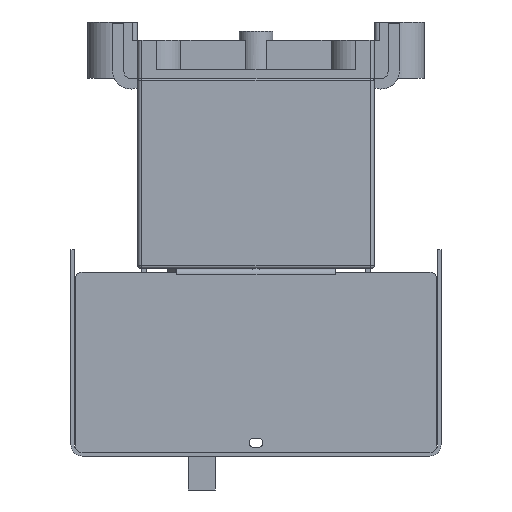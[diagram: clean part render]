
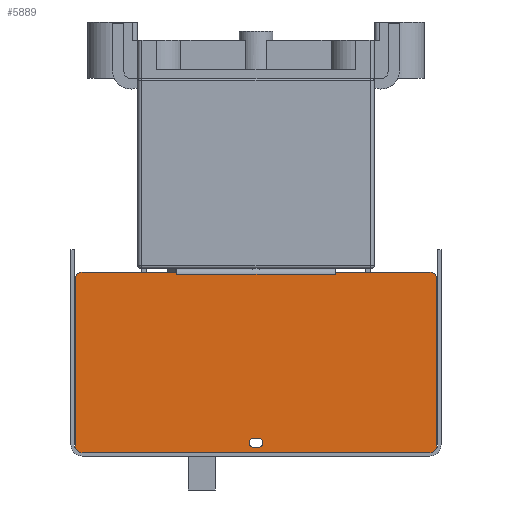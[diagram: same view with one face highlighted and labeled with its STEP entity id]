
A CAD part, left-side view. The second image highlights one B-rep face of the part: STEP entity #5889.
In plain terms, the highlighted planar face has unit normal (-1, 0, 0).
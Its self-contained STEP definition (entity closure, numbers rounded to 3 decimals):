
#602=FACE_BOUND('',#8879,.T.);
#603=FACE_BOUND('',#8880,.T.);
#2193=LINE('',#33012,#4405);
#2200=LINE('',#33030,#4412);
#2206=LINE('',#33047,#4418);
#2210=LINE('',#33060,#4422);
#2215=LINE('',#33077,#4427);
#2216=LINE('',#33082,#4428);
#2221=LINE('',#33095,#4433);
#2222=LINE('',#33097,#4434);
#2223=LINE('',#33099,#4435);
#2224=LINE('',#33101,#4436);
#2225=LINE('',#33103,#4437);
#2226=LINE('',#33105,#4438);
#4405=VECTOR('',#26805,1.);
#4412=VECTOR('',#26818,1.);
#4418=VECTOR('',#26832,1.);
#4422=VECTOR('',#26844,1.);
#4427=VECTOR('',#26863,1.);
#4428=VECTOR('',#26872,1.);
#4433=VECTOR('',#26885,1.);
#4434=VECTOR('',#26888,1.);
#4435=VECTOR('',#26889,1.);
#4436=VECTOR('',#26890,1.);
#4437=VECTOR('',#26891,1.);
#4438=VECTOR('',#26892,1.);
#5889=ADVANCED_FACE('',(#602,#603),#6783,.T.);
#6783=PLANE('',#22396);
#8879=EDGE_LOOP('',(#13087,#13088,#13089,#13090,#13091,#13092,#13093,#13094,
#13095,#13096,#13097,#13098,#13099,#13100));
#8880=EDGE_LOOP('',(#13101,#13102,#13103,#13104));
#13087=ORIENTED_EDGE('',*,*,#19351,.F.);
#13088=ORIENTED_EDGE('',*,*,#19352,.T.);
#13089=ORIENTED_EDGE('',*,*,#19353,.T.);
#13090=ORIENTED_EDGE('',*,*,#19354,.T.);
#13091=ORIENTED_EDGE('',*,*,#19355,.F.);
#13092=ORIENTED_EDGE('',*,*,#19343,.T.);
#13093=ORIENTED_EDGE('',*,*,#19348,.T.);
#13094=ORIENTED_EDGE('',*,*,#19331,.T.);
#13095=ORIENTED_EDGE('',*,*,#19334,.T.);
#13096=ORIENTED_EDGE('',*,*,#19309,.T.);
#13097=ORIENTED_EDGE('',*,*,#19337,.T.);
#13098=ORIENTED_EDGE('',*,*,#19340,.T.);
#13099=ORIENTED_EDGE('',*,*,#19342,.T.);
#13100=ORIENTED_EDGE('',*,*,#19317,.T.);
#13101=ORIENTED_EDGE('',*,*,#19321,.T.);
#13102=ORIENTED_EDGE('',*,*,#19325,.T.);
#13103=ORIENTED_EDGE('',*,*,#19328,.T.);
#13104=ORIENTED_EDGE('',*,*,#19350,.T.);
#16362=VERTEX_POINT('',#31841);
#16407=VERTEX_POINT('',#31938);
#16691=VERTEX_POINT('',#33029);
#16692=VERTEX_POINT('',#33031);
#16695=VERTEX_POINT('',#33038);
#16696=VERTEX_POINT('',#33040);
#16698=VERTEX_POINT('',#33046);
#16700=VERTEX_POINT('',#33052);
#16703=VERTEX_POINT('',#33059);
#16704=VERTEX_POINT('',#33061);
#16706=VERTEX_POINT('',#33070);
#16708=VERTEX_POINT('',#33076);
#16709=VERTEX_POINT('',#33083);
#16710=VERTEX_POINT('',#33084);
#16713=VERTEX_POINT('',#33098);
#16714=VERTEX_POINT('',#33100);
#16715=VERTEX_POINT('',#33102);
#16716=VERTEX_POINT('',#33104);
#19309=EDGE_CURVE('',#16362,#16407,#2193,.T.);
#19317=EDGE_CURVE('',#16692,#16691,#2200,.T.);
#19321=EDGE_CURVE('',#16696,#16695,#20915,.T.);
#19325=EDGE_CURVE('',#16695,#16698,#2206,.T.);
#19328=EDGE_CURVE('',#16698,#16700,#20917,.T.);
#19331=EDGE_CURVE('',#16704,#16703,#2210,.T.);
#19334=EDGE_CURVE('',#16703,#16362,#20919,.T.);
#19337=EDGE_CURVE('',#16407,#16706,#20921,.T.);
#19340=EDGE_CURVE('',#16706,#16708,#2215,.T.);
#19342=EDGE_CURVE('',#16708,#16692,#20923,.T.);
#19343=EDGE_CURVE('',#16709,#16710,#2216,.T.);
#19348=EDGE_CURVE('',#16710,#16704,#20925,.T.);
#19350=EDGE_CURVE('',#16700,#16696,#2221,.T.);
#19351=EDGE_CURVE('',#16713,#16691,#2222,.T.);
#19352=EDGE_CURVE('',#16713,#16714,#2223,.T.);
#19353=EDGE_CURVE('',#16714,#16715,#2224,.T.);
#19354=EDGE_CURVE('',#16715,#16716,#2225,.T.);
#19355=EDGE_CURVE('',#16709,#16716,#2226,.T.);
#20915=CIRCLE('',#22374,2.1);
#20917=CIRCLE('',#22378,2.1);
#20919=CIRCLE('',#22382,3.);
#20921=CIRCLE('',#22385,3.);
#20923=CIRCLE('',#22389,3.);
#20925=CIRCLE('',#22393,3.);
#22374=AXIS2_PLACEMENT_3D('',#33039,#26825,#26826);
#22378=AXIS2_PLACEMENT_3D('',#33053,#26838,#26839);
#22382=AXIS2_PLACEMENT_3D('',#33065,#26850,#26851);
#22385=AXIS2_PLACEMENT_3D('',#33071,#26857,#26858);
#22389=AXIS2_PLACEMENT_3D('',#33080,#26868,#26869);
#22393=AXIS2_PLACEMENT_3D('',#33092,#26880,#26881);
#22396=AXIS2_PLACEMENT_3D('',#33106,#26893,#26894);
#26805=DIRECTION('',(0.,-1.,0.));
#26818=DIRECTION('',(0.,1.,0.));
#26825=DIRECTION('',(1.,0.,0.));
#26826=DIRECTION('',(0.,1.,0.));
#26832=DIRECTION('',(0.,-1.,0.));
#26838=DIRECTION('',(1.,0.,0.));
#26839=DIRECTION('',(0.,1.,0.));
#26844=DIRECTION('',(0.,0.,-1.));
#26850=DIRECTION('',(-1.,0.,0.));
#26851=DIRECTION('',(0.,1.,0.));
#26857=DIRECTION('',(-1.,0.,0.));
#26858=DIRECTION('',(0.,1.,0.));
#26863=DIRECTION('',(0.,0.,1.));
#26868=DIRECTION('',(-1.,0.,0.));
#26869=DIRECTION('',(0.,1.,0.));
#26872=DIRECTION('',(0.,1.,0.));
#26880=DIRECTION('',(-1.,0.,0.));
#26881=DIRECTION('',(0.,1.,0.));
#26885=DIRECTION('',(0.,1.,0.));
#26888=DIRECTION('',(0.,0.,1.));
#26889=DIRECTION('',(0.,1.,0.));
#26890=DIRECTION('',(0.,1.,0.));
#26891=DIRECTION('',(0.,1.,0.));
#26892=DIRECTION('',(0.,0.,-1.));
#26893=DIRECTION('',(-1.,0.,0.));
#26894=DIRECTION('',(0.,-1.,0.));
#31841=CARTESIAN_POINT('',(-189.3,77.,-165.8));
#31938=CARTESIAN_POINT('',(-189.3,-77.,-165.8));
#33012=CARTESIAN_POINT('',(-189.3,77.,-165.8));
#33029=CARTESIAN_POINT('',(-189.3,-35.002,-85.8));
#33030=CARTESIAN_POINT('',(-189.3,-77.,-85.8));
#33031=CARTESIAN_POINT('',(-189.3,-77.,-85.8));
#33038=CARTESIAN_POINT('',(-189.3,1.,-159.3));
#33039=CARTESIAN_POINT('',(-189.3,1.,-161.4));
#33040=CARTESIAN_POINT('',(-189.3,1.,-163.5));
#33046=CARTESIAN_POINT('',(-189.3,-1.,-159.3));
#33047=CARTESIAN_POINT('',(-189.3,1.,-159.3));
#33052=CARTESIAN_POINT('',(-189.3,-1.,-163.5));
#33053=CARTESIAN_POINT('',(-189.3,-1.,-161.4));
#33059=CARTESIAN_POINT('',(-189.3,80.,-162.8));
#33060=CARTESIAN_POINT('',(-189.3,80.,-88.8));
#33061=CARTESIAN_POINT('',(-189.3,80.,-88.8));
#33065=CARTESIAN_POINT('',(-189.3,77.,-162.8));
#33070=CARTESIAN_POINT('',(-189.3,-80.,-162.8));
#33071=CARTESIAN_POINT('',(-189.3,-77.,-162.8));
#33076=CARTESIAN_POINT('',(-189.3,-80.,-88.8));
#33077=CARTESIAN_POINT('',(-189.3,-80.,-162.8));
#33080=CARTESIAN_POINT('',(-189.3,-77.,-88.8));
#33082=CARTESIAN_POINT('',(-189.3,-77.,-85.8));
#33083=CARTESIAN_POINT('',(-189.3,35.002,-85.8));
#33084=CARTESIAN_POINT('',(-189.3,77.,-85.8));
#33092=CARTESIAN_POINT('',(-189.3,77.,-88.8));
#33095=CARTESIAN_POINT('',(-189.3,-1.,-163.5));
#33097=CARTESIAN_POINT('',(-189.3,-35.002,-162.8));
#33098=CARTESIAN_POINT('',(-189.3,-35.002,-86.8));
#33099=CARTESIAN_POINT('',(-189.3,77.,-86.8));
#33100=CARTESIAN_POINT('',(-189.3,-35.,-86.8));
#33101=CARTESIAN_POINT('',(-189.3,50.5,-86.8));
#33102=CARTESIAN_POINT('',(-189.3,35.,-86.8));
#33103=CARTESIAN_POINT('',(-189.3,77.,-86.8));
#33104=CARTESIAN_POINT('',(-189.3,35.002,-86.8));
#33105=CARTESIAN_POINT('',(-189.3,35.002,-162.8));
#33106=CARTESIAN_POINT('',(-189.3,77.,-162.8));
